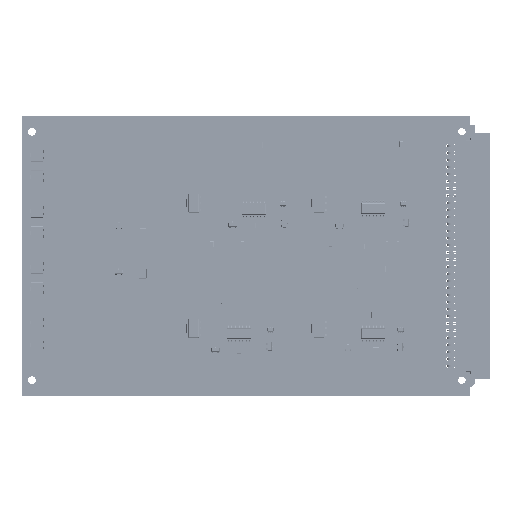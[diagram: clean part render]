
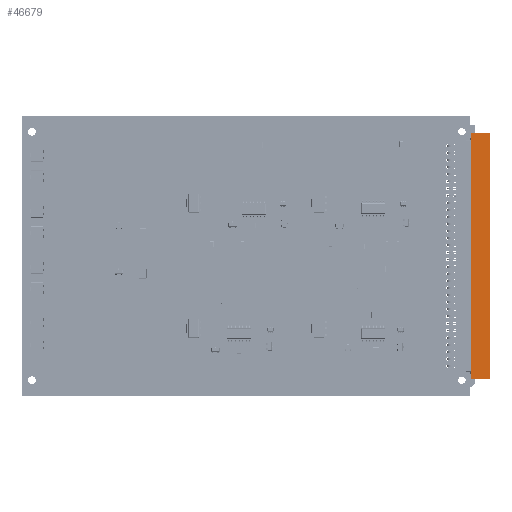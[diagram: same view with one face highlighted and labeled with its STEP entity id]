
A CAD part, top view. The second image highlights one B-rep face of the part: STEP entity #46679.
In plain terms, the highlighted planar face has unit normal (0, 0, 1).
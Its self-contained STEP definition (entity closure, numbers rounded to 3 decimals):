
#2231=PLANE('',#50645);
#4764=FACE_OUTER_BOUND('',#7581,.T.);
#7581=EDGE_LOOP('',(#38159,#38160,#38161,#38162));
#11185=LINE('',#75035,#16435);
#11225=LINE('',#75111,#16475);
#11267=LINE('',#75214,#16517);
#11276=LINE('',#75232,#16526);
#16435=VECTOR('',#58847,6.664);
#16475=VECTOR('',#58897,6.664);
#16517=VECTOR('',#58951,87.76);
#16526=VECTOR('',#58962,87.76);
#22576=VERTEX_POINT('',#75032);
#22577=VERTEX_POINT('',#75034);
#22607=VERTEX_POINT('',#75108);
#22608=VERTEX_POINT('',#75110);
#28098=EDGE_CURVE('',#22577,#22576,#11185,.T.);
#28138=EDGE_CURVE('',#22607,#22608,#11225,.T.);
#28182=EDGE_CURVE('',#22576,#22608,#11267,.T.);
#28191=EDGE_CURVE('',#22577,#22607,#11276,.T.);
#38159=ORIENTED_EDGE('',*,*,#28182,.T.);
#38160=ORIENTED_EDGE('',*,*,#28138,.F.);
#38161=ORIENTED_EDGE('',*,*,#28191,.F.);
#38162=ORIENTED_EDGE('',*,*,#28098,.T.);
#46679=ADVANCED_FACE('',(#4764),#2231,.T.);
#50645=AXIS2_PLACEMENT_3D('',#75231,#58960,#58961);
#58847=DIRECTION('',(0.,-1.,0.));
#58897=DIRECTION('',(0.,-1.,0.));
#58951=DIRECTION('',(1.,0.,0.));
#58960=DIRECTION('center_axis',(0.,0.,
1.));
#58961=DIRECTION('ref_axis',(1.,0.,0.));
#58962=DIRECTION('',(1.,0.,0.));
#75032=CARTESIAN_POINT('',(-83.25,-12.65,6.933));
#75034=CARTESIAN_POINT('',(-83.25,-5.986,6.933));
#75035=CARTESIAN_POINT('',(-83.25,-5.986,6.933));
#75108=CARTESIAN_POINT('',(4.51,-5.986,6.933));
#75110=CARTESIAN_POINT('',(4.51,-12.65,6.933));
#75111=CARTESIAN_POINT('',(4.51,-5.986,6.933));
#75214=CARTESIAN_POINT('',(-83.25,-12.65,6.933));
#75231=CARTESIAN_POINT('Origin',(-83.25,-5.986,6.933));
#75232=CARTESIAN_POINT('',(-83.25,-5.986,6.933));
